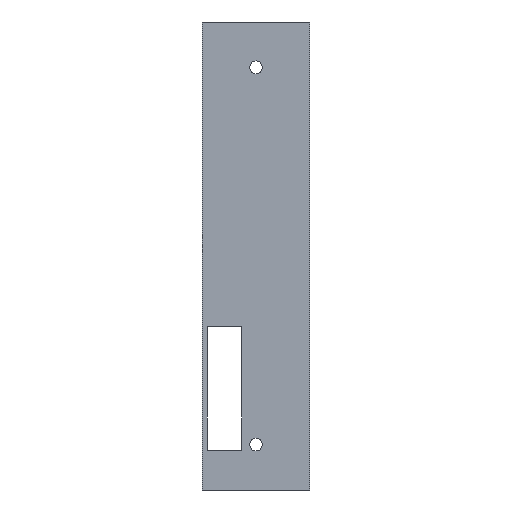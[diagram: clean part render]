
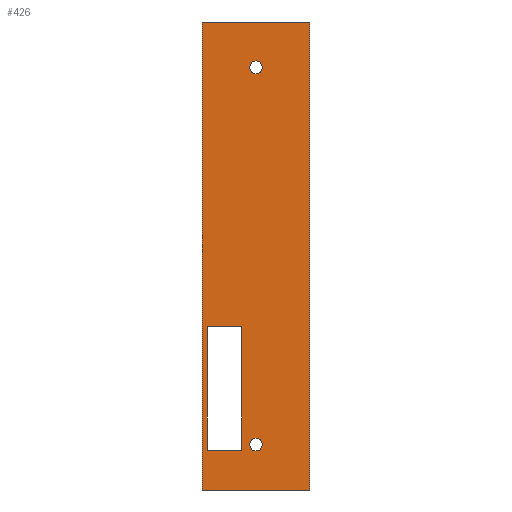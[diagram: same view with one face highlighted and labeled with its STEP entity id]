
A CAD part, left-side view. The second image highlights one B-rep face of the part: STEP entity #426.
In plain terms, the highlighted planar face has unit normal (-1, 0, 0).
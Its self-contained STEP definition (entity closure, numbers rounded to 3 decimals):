
#12 = ORIENTED_EDGE ( 'NONE', *, *, #378, .T. ) ;
#13 = ORIENTED_EDGE ( 'NONE', *, *, #379, .T. ) ;
#14 = ORIENTED_EDGE ( 'NONE', *, *, #380, .T. ) ;
#15 = ORIENTED_EDGE ( 'NONE', *, *, #358, .T. ) ;
#16 = ORIENTED_EDGE ( 'NONE', *, *, #381, .T. ) ;
#19 = EDGE_LOOP ( 'NONE', ( #14, #15 ) ) ;
#48 = FACE_BOUND ( 'NONE', #431, .T. ) ;
#49 = FACE_BOUND ( 'NONE', #19, .T. ) ;
#50 = FACE_BOUND ( 'NONE', #432, .T. ) ;
#51 = FACE_OUTER_BOUND ( 'NONE', #403, .T. ) ;
#60 = ORIENTED_EDGE ( 'NONE', *, *, #361, .T. ) ;
#61 = ORIENTED_EDGE ( 'NONE', *, *, #366, .F. ) ;
#62 = ORIENTED_EDGE ( 'NONE', *, *, #370, .F. ) ;
#63 = ORIENTED_EDGE ( 'NONE', *, *, #373, .F. ) ;
#64 = ORIENTED_EDGE ( 'NONE', *, *, #375, .F. ) ;
#85 = CARTESIAN_POINT ( 'NONE',  ( -4., 13.375, -53.5 ) ) ;
#91 = VERTEX_POINT ( 'NONE', #85 ) ;
#101 = VERTEX_POINT ( 'NONE', #117 ) ;
#108 = VERTEX_POINT ( 'NONE', #311 ) ;
#109 = VERTEX_POINT ( 'NONE', #310 ) ;
#115 = CARTESIAN_POINT ( 'NONE',  ( -4., 0., 53.75 ) ) ;
#117 = CARTESIAN_POINT ( 'NONE',  ( -4., -14.875, 64.5 ) ) ;
#118 = CARTESIAN_POINT ( 'NONE',  ( -4., 14.875, 64.5 ) ) ;
#119 = CARTESIAN_POINT ( 'NONE',  ( -4., 3.875, -53.5 ) ) ;
#137 = VERTEX_POINT ( 'NONE', #307 ) ;
#139 = DIRECTION ( 'NONE',  ( 0., 0., -1. ) ) ;
#140 = DIRECTION ( 'NONE',  ( 1., 0., 0. ) ) ;
#141 = CARTESIAN_POINT ( 'NONE',  ( -4., -14.875, -64.5 ) ) ;
#142 = PLANE ( 'NONE',  #323 ) ;
#159 = VERTEX_POINT ( 'NONE', #306 ) ;
#196 = VERTEX_POINT ( 'NONE', #303 ) ;
#216 = DIRECTION ( 'NONE',  ( 0., 0., -1. ) ) ;
#217 = DIRECTION ( 'NONE',  ( 1., 0., 0. ) ) ;
#218 = CARTESIAN_POINT ( 'NONE',  ( -4., 0., 52. ) ) ;
#219 = DIRECTION ( 'NONE',  ( 0., 0., -1. ) ) ;
#220 = DIRECTION ( 'NONE',  ( 1., 0., 0. ) ) ;
#221 = CARTESIAN_POINT ( 'NONE',  ( -4., 0., -52. ) ) ;
#222 = DIRECTION ( 'NONE',  ( 0., -1., 0. ) ) ;
#223 = CARTESIAN_POINT ( 'NONE',  ( -4., 13.375, -19.5 ) ) ;
#224 = DIRECTION ( 'NONE',  ( 0., 0., 1. ) ) ;
#225 = CARTESIAN_POINT ( 'NONE',  ( -4., 13.375, -53.5 ) ) ;
#226 = DIRECTION ( 'NONE',  ( 0., 1., 0. ) ) ;
#227 = CARTESIAN_POINT ( 'NONE',  ( -4., 13.375, -53.5 ) ) ;
#228 = DIRECTION ( 'NONE',  ( 0., 0., -1. ) ) ;
#229 = CARTESIAN_POINT ( 'NONE',  ( -4., 3.875, -53.5 ) ) ;
#230 = DIRECTION ( 'NONE',  ( 0., 0., 1. ) ) ;
#231 = CARTESIAN_POINT ( 'NONE',  ( -4., 14.875, 64.5 ) ) ;
#234 = DIRECTION ( 'NONE',  ( 0., -1., 0. ) ) ;
#235 = CARTESIAN_POINT ( 'NONE',  ( -4., 14.875, 64.5 ) ) ;
#240 = DIRECTION ( 'NONE',  ( 0., 0., -1. ) ) ;
#241 = CARTESIAN_POINT ( 'NONE',  ( -4., -14.875, 64.5 ) ) ;
#248 = DIRECTION ( 'NONE',  ( 0., 1., 0. ) ) ;
#249 = CARTESIAN_POINT ( 'NONE',  ( -4., 14.875, -64.5 ) ) ;
#258 = DIRECTION ( 'NONE',  ( 0., 0., -1. ) ) ;
#259 = DIRECTION ( 'NONE',  ( 1., 0., 0. ) ) ;
#260 = CARTESIAN_POINT ( 'NONE',  ( -4., 0., 52. ) ) ;
#265 = DIRECTION ( 'NONE',  ( 0., 0., -1. ) ) ;
#266 = DIRECTION ( 'NONE',  ( 1., 0., 0. ) ) ;
#267 = CARTESIAN_POINT ( 'NONE',  ( -4., 0., -52. ) ) ;
#292 = VERTEX_POINT ( 'NONE', #300 ) ;
#296 = CARTESIAN_POINT ( 'NONE',  ( -4., 0., 50.25 ) ) ;
#300 = CARTESIAN_POINT ( 'NONE',  ( -4., 3.875, -19.5 ) ) ;
#302 = VERTEX_POINT ( 'NONE', #296 ) ;
#303 = CARTESIAN_POINT ( 'NONE',  ( -4., 0., -53.75 ) ) ;
#306 = CARTESIAN_POINT ( 'NONE',  ( -4., 14.875, -64.5 ) ) ;
#307 = CARTESIAN_POINT ( 'NONE',  ( -4., 0., -50.25 ) ) ;
#310 = CARTESIAN_POINT ( 'NONE',  ( -4., -14.875, -64.5 ) ) ;
#311 = CARTESIAN_POINT ( 'NONE',  ( -4., 13.375, -19.5 ) ) ;
#323 = AXIS2_PLACEMENT_3D ( 'NONE', #141, #140, #139 ) ;
#341 = AXIS2_PLACEMENT_3D ( 'NONE', #218, #217, #216 ) ;
#342 = AXIS2_PLACEMENT_3D ( 'NONE', #221, #220, #219 ) ;
#343 = AXIS2_PLACEMENT_3D ( 'NONE', #260, #259, #258 ) ;
#344 = AXIS2_PLACEMENT_3D ( 'NONE', #267, #266, #265 ) ;
#358 = EDGE_CURVE ( 'NONE', #137, #196, #503, .T. ) ;
#361 = EDGE_CURVE ( 'NONE', #475, #302, #508, .T. ) ;
#366 = EDGE_CURVE ( 'NONE', #109, #159, #516, .T. ) ;
#370 = EDGE_CURVE ( 'NONE', #101, #109, #524, .T. ) ;
#373 = EDGE_CURVE ( 'NONE', #473, #101, #530, .T. ) ;
#375 = EDGE_CURVE ( 'NONE', #159, #473, #534, .T. ) ;
#376 = EDGE_CURVE ( 'NONE', #292, #472, #536, .T. ) ;
#377 = EDGE_CURVE ( 'NONE', #472, #91, #538, .T. ) ;
#378 = EDGE_CURVE ( 'NONE', #91, #108, #540, .T. ) ;
#379 = EDGE_CURVE ( 'NONE', #108, #292, #542, .T. ) ;
#380 = EDGE_CURVE ( 'NONE', #196, #137, #544, .T. ) ;
#381 = EDGE_CURVE ( 'NONE', #302, #475, #546, .T. ) ;
#396 = ORIENTED_EDGE ( 'NONE', *, *, #377, .T. ) ;
#398 = ORIENTED_EDGE ( 'NONE', *, *, #376, .T. ) ;
#403 = EDGE_LOOP ( 'NONE', ( #61, #62, #63, #64 ) ) ;
#426 = ADVANCED_FACE ( 'NONE', ( #48, #49, #50, #51 ), #142, .F. ) ;
#431 = EDGE_LOOP ( 'NONE', ( #398, #396, #12, #13 ) ) ;
#432 = EDGE_LOOP ( 'NONE', ( #16, #60 ) ) ;
#472 = VERTEX_POINT ( 'NONE', #119 ) ;
#473 = VERTEX_POINT ( 'NONE', #118 ) ;
#475 = VERTEX_POINT ( 'NONE', #115 ) ;
#503 = CIRCLE ( 'NONE', #344, 1.75 ) ;
#508 = CIRCLE ( 'NONE', #343, 1.75 ) ;
#516 = LINE ( 'NONE', #249, #517 ) ;
#517 = VECTOR ( 'NONE', #248, 1000. ) ;
#524 = LINE ( 'NONE', #241, #525 ) ;
#525 = VECTOR ( 'NONE', #240, 1000. ) ;
#530 = LINE ( 'NONE', #235, #531 ) ;
#531 = VECTOR ( 'NONE', #234, 1000. ) ;
#534 = LINE ( 'NONE', #231, #535 ) ;
#535 = VECTOR ( 'NONE', #230, 1000. ) ;
#536 = LINE ( 'NONE', #229, #537 ) ;
#537 = VECTOR ( 'NONE', #228, 1000. ) ;
#538 = LINE ( 'NONE', #227, #539 ) ;
#539 = VECTOR ( 'NONE', #226, 1000. ) ;
#540 = LINE ( 'NONE', #225, #541 ) ;
#541 = VECTOR ( 'NONE', #224, 1000. ) ;
#542 = LINE ( 'NONE', #223, #543 ) ;
#543 = VECTOR ( 'NONE', #222, 1000. ) ;
#544 = CIRCLE ( 'NONE', #342, 1.75 ) ;
#546 = CIRCLE ( 'NONE', #341, 1.75 ) ;
